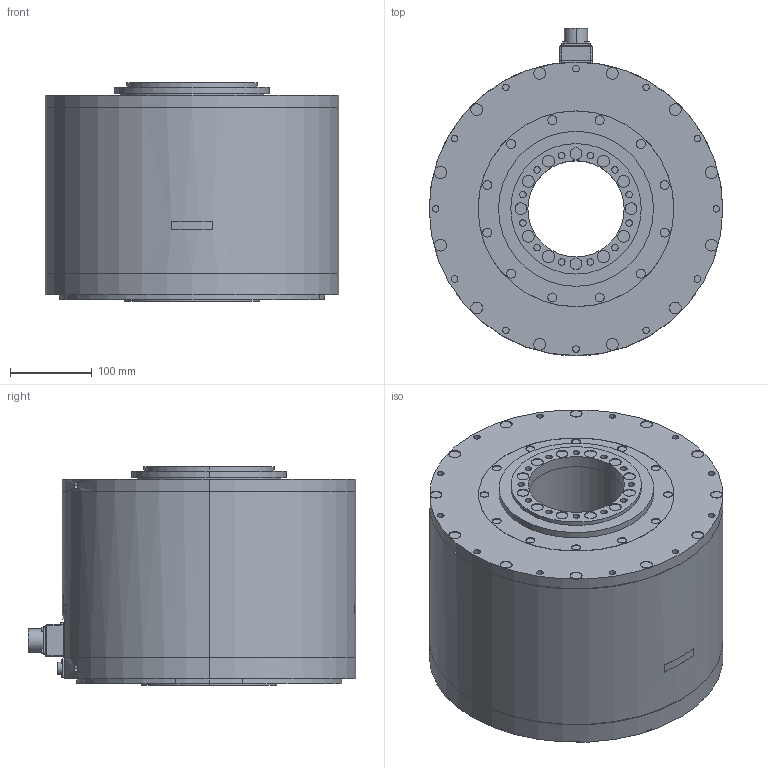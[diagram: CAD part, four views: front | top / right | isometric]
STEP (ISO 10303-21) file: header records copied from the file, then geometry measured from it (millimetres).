
FILE_DESCRIPTION (( 'STEP AP203' ), '1' );
FILE_NAME ('sgm7f_2zn_a1_.STEP', '2016-08-19T09:00:44', ( '' ), ( '' ), 'SwSTEP 2.0', 'SolidWorks 2010', '' );
FILE_SCHEMA (( 'CONFIG_CONTROL_DESIGN' ));
Length unit declared in the file: millimetre
Products named in the file (1): sgm7f_2zn_a1_
Bounding box: 360 x 402 x 267.5 mm (x, y, z)
Volume: 22586558 mm3; surface area: 626745.8 mm2
Topology: 1 solids, 1 shells, 540 faces, 1146 edges, 764 vertices
Faces by surface type: cylinder 326, plane 209, bspline 5
Entity records: 15453 total; most frequent: CARTESIAN_POINT 3044, DIRECTION 2854, ORIENTED_EDGE 2292, AXIS2_PLACEMENT_3D 1196, EDGE_CURVE 1146, VERTEX_POINT 764, EDGE_LOOP 698, CIRCLE 660
